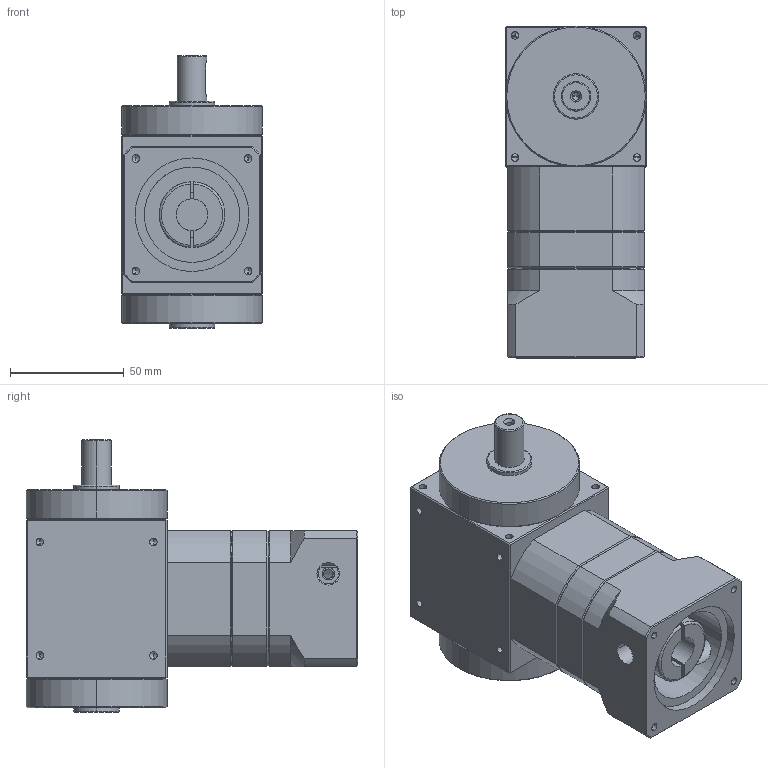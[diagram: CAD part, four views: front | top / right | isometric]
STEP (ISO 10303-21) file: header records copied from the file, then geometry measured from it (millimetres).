
FILE_DESCRIPTION (( 'STEP AP203' ), '1' );
FILE_NAME ('KHT60-S1-L2£r50PCD£r70M4.STEP', '2014-03-24T03:21:42', ( 'KELLY' ), ( '' ), 'SwSTEP 2.0', 'SolidWorks 2012', '' );
FILE_SCHEMA (( 'CONFIG_CONTROL_DESIGN' ));
Length unit declared in the file: millimetre
Products named in the file (1): KHT60-S1-L2｣r50PCD｣r70M4
Bounding box: 62 x 146 x 120 mm (x, y, z)
Volume: 589709 mm3; surface area: 87527.5 mm2
Topology: 7 solids, 7 shells, 308 faces, 757 edges, 422 vertices
Faces by surface type: cylinder 121, plane 93, cone 84, torus 10
Entity records: 9612 total; most frequent: CARTESIAN_POINT 2627, DIRECTION 1452, ORIENTED_EDGE 1414, EDGE_CURVE 707, AXIS2_PLACEMENT_3D 564, VERTEX_POINT 422, EDGE_LOOP 353, LINE 324
